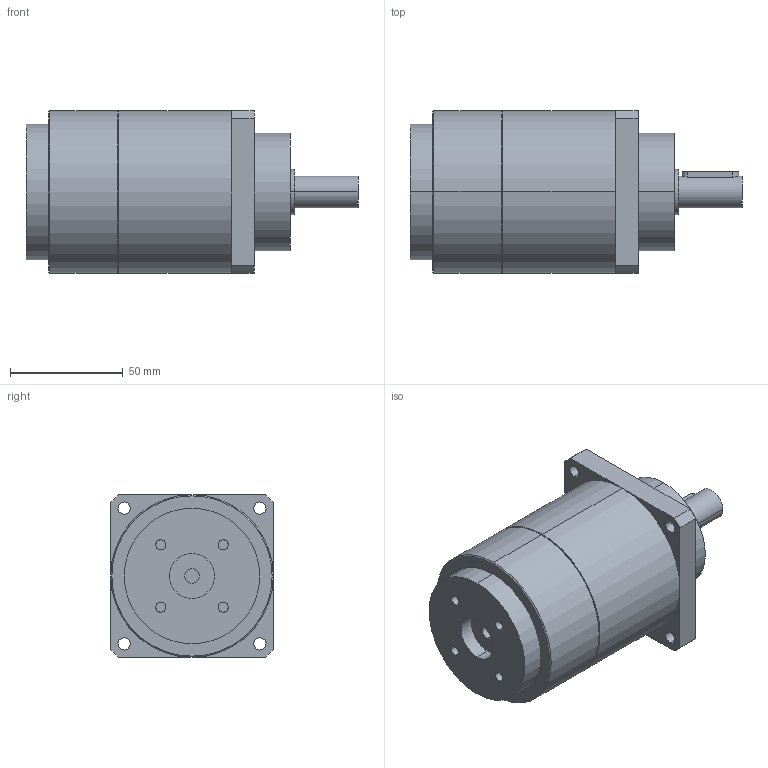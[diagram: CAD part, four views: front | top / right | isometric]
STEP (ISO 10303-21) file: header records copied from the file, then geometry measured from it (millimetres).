
FILE_DESCRIPTION(('CoCreate Modeling STEP Export'),'2;1');
FILE_NAME('GPT75_ig-9-12-16-20-25-28-35-40-50-70-100_14_B5T_6.35_P14.stp','2014-08-27T13:38:46',(''),(''),'CoCreate Modeling STEP processor for AP214 (Solid Model)','CoCreate Modeling 16.00C 25-Feb-2009 (C) Parametric Technology GmbH','');
FILE_SCHEMA(('AUTOMOTIVE_DESIGN { 1 0 10303 214 1 1 1 1 }'));
Length unit declared in the file: millimetre
Products named in the file (2): GPT75_ig-9-12-16-20-25-28-35-40-50-70-100_14_B5T_6.35_P14
Assembly tree (1 placements, depth 2):
  GPT75_ig-9-12-16-20-25-28-35-40-50-70-100_14_B5T_6.35_P14
    GPT75_ig-9-12-16-20-25-28-35-40-50-70-100_14_B5T_6.35_P14
Bounding box: 147 x 72 x 72 mm (x, y, z)
Volume: 443910.4 mm3; surface area: 39820.6 mm2
Topology: 1 solids, 1 shells, 69 faces, 165 edges, 110 vertices
Faces by surface type: cylinder 40, plane 25, cone 4
Entity records: 2146 total; most frequent: CARTESIAN_POINT 661, ORIENTED_EDGE 330, DIRECTION 260, EDGE_CURVE 165, VERTEX_POINT 110, AXIS2_PLACEMENT_3D 97, EDGE_LOOP 89, FACE_OUTER_BOUND 69
